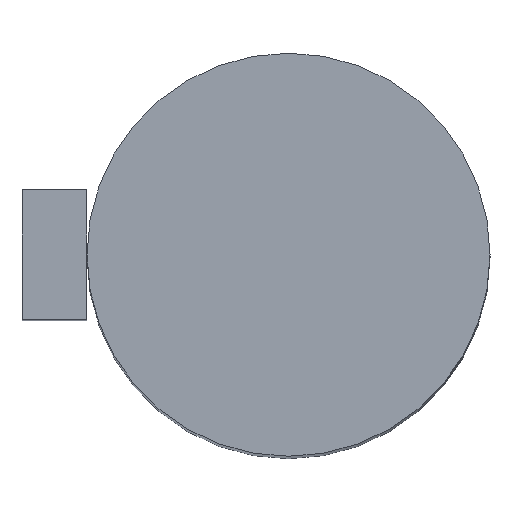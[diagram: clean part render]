
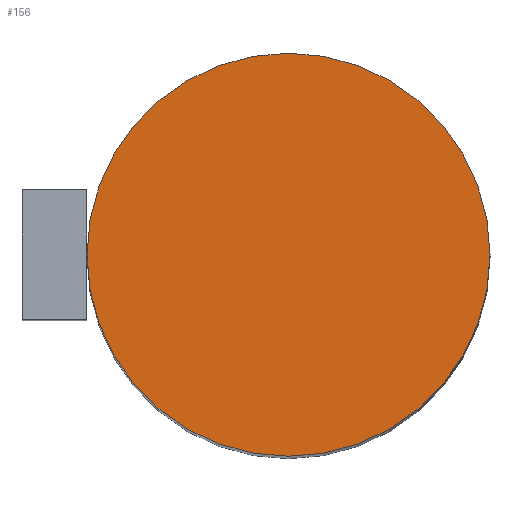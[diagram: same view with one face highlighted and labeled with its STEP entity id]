
A CAD part, top view. The second image highlights one B-rep face of the part: STEP entity #156.
In plain terms, the highlighted planar face has unit normal (0, 0, 1).
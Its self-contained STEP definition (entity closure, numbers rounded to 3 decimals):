
#14=CIRCLE('',#187,9.3);
#27=FACE_OUTER_BOUND('',#36,.T.);
#36=EDGE_LOOP('',(#132));
#81=VERTEX_POINT('',#266);
#99=EDGE_CURVE('',#81,#81,#14,.T.);
#132=ORIENTED_EDGE('',*,*,#99,.T.);
#148=PLANE('',#186);
#156=ADVANCED_FACE('',(#27),#148,.T.);
#186=AXIS2_PLACEMENT_3D('',#265,#220,#221);
#187=AXIS2_PLACEMENT_3D('',#267,#222,#223);
#220=DIRECTION('center_axis',(0.,0.,1.));
#221=DIRECTION('ref_axis',(1.,0.,0.));
#222=DIRECTION('center_axis',(0.,0.,1.));
#223=DIRECTION('ref_axis',(1.,0.,0.));
#265=CARTESIAN_POINT('Origin',(0.,0.,32.6));
#266=CARTESIAN_POINT('',(-9.3,0.,32.6));
#267=CARTESIAN_POINT('Origin',(0.,0.,32.6));
